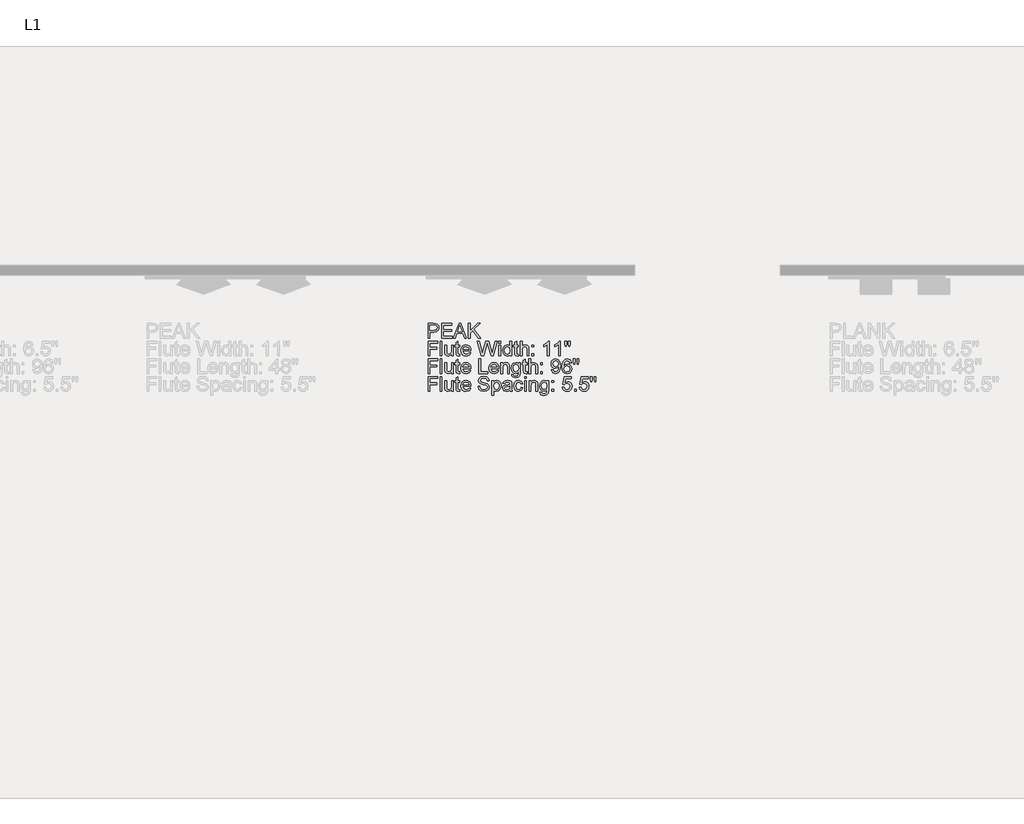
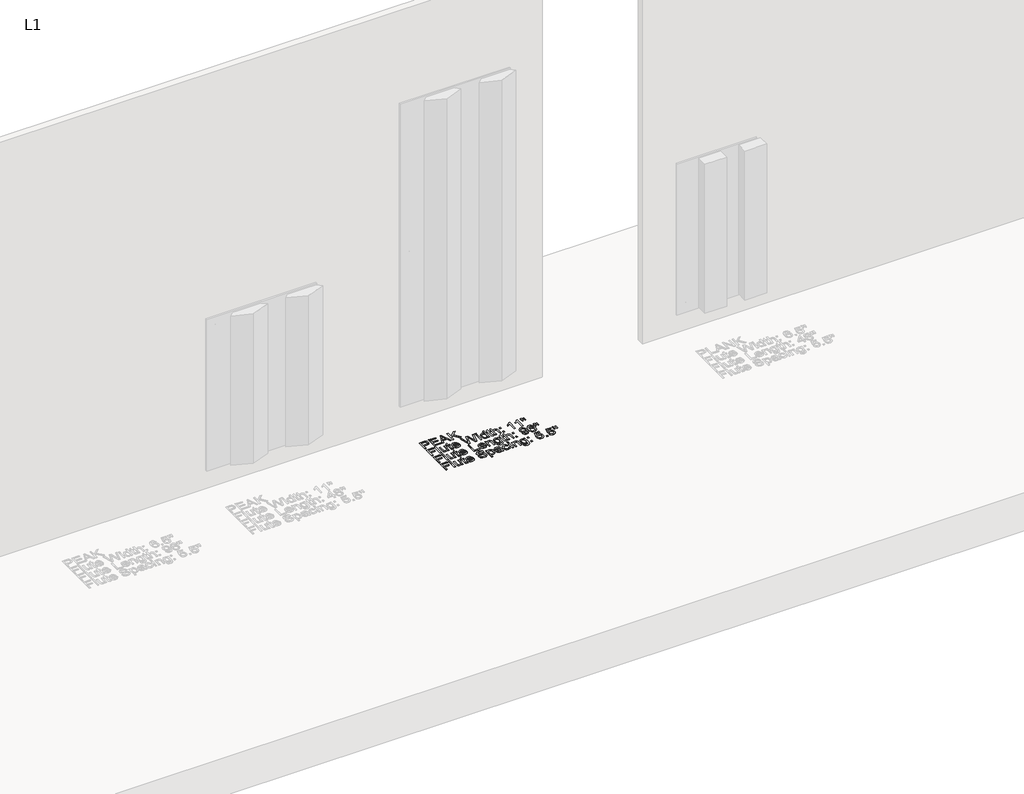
# One storey, part 11 of 17: 1 proxy.
"""IFC4 building model written with IfcOpenShell, lengths in millimetres."""

from ifc_helpers import new_model, si_unit, origin, origin_with_axes, place, context, project, spatial, polyline, outline, extrude, element, save

model = new_model("IFC4")

# Units and contexts
model_context = context("Model", 3, world=origin())
ifc_project = project(units=[si_unit("LENGTHUNIT", "METRE", prefix="MILLI")], contexts=[model_context])

# Site, building, storey
site = spatial("IfcSite", under=ifc_project)
building = spatial("IfcBuilding", under=site)
storey = spatial("IfcBuildingStorey", under=building, Name="L1", Elevation=0.0)

# Proxy
placement = place(None, origin())
element("IfcBuildingElementProxy", 1, Name="3\" Arial", ObjectType="3\" Arial", at=placement, inside=storey, context=model_context, shape_type="SweptSolid", body=[
    extrude(outline(polyline([(11546.3224056, -355.6), (11546.3224056, -279.0522917), (11574.6914049, -279.0522917), (11586.128709, -279.7811395), (11595.4261907, -283.3599691), (11601.4532014, -290.7605776), (11603.7331868, -301.198052), (11602.1937295, -310.2198797), (11597.5753573, -317.7372908), (11588.938978, -322.8111928), (11575.3454991, -324.5024935), (11555.8908691, -324.5024935), (11555.8908691, -355.6), (11546.3224056, -355.6)]), holes=[polyline([(11555.8908691, -314.9340299), (11575.9061513, -314.9340299), (11589.9972089, -311.4206097), (11594.1647233, -301.5344433), (11591.707198, -293.6105594), (11585.250354, -289.2748494), (11575.6818904, -288.6207552), (11555.8908691, -288.6207552), (11555.8908691, -314.9340299)])]), origin_with_axes(), (0.0, 0.0, 1.0), 3.175),
    extrude(outline(polyline([(11616.8898242, -355.6), (11616.8898242, -279.0522917), (11671.9084896, -279.0522917), (11671.9084896, -288.6207552), (11626.4582878, -288.6207552), (11626.4582878, -311.3458561), (11669.5163737, -311.3458561), (11669.5163737, -320.9143197), (11626.4582878, -320.9143197), (11626.4582878, -346.0315365), (11673.1045475, -346.0315365), (11673.1045475, -355.6), (11616.8898242, -355.6)])), origin_with_axes(), (0.0, 0.0, 1.0), 3.175),
    extrude(outline(polyline([(11678.5615619, -355.6), (11709.1171046, -279.0522917), (11717.2652494, -279.0522917), (11747.8021037, -355.6), (11737.6916764, -355.6), (11728.9455027, -331.6788411), (11697.3994745, -331.6788411), (11688.6533008, -355.6), (11678.5615619, -355.6)]), holes=[polyline([(11700.9128947, -322.1103776), (11725.4507709, -322.1103776), (11718.5360609, -303.2911534), (11713.1724886, -288.6207552), (11708.4069452, -301.6465737), (11700.9128947, -322.1103776)])]), origin_with_axes(), (0.0, 0.0, 1.0), 3.175),
    extrude(outline(polyline([(11758.0246615, -355.6), (11758.0246615, -279.0522917), (11767.593125, -279.0522917), (11767.593125, -316.5225444), (11806.8387762, -279.0522917), (11820.2196745, -279.0522917), (11787.2533274, -310.5235663), (11821.4157324, -355.6), (11809.7167907, -355.6), (11780.4694363, -316.9897545), (11767.593125, -329.2867253), (11767.593125, -355.6), (11758.0246615, -355.6)])), origin_with_axes(), (0.0, 0.0, 1.0), 3.175),
    extrude(outline(polyline([(11546.3224056, -448.5448112), (11546.3224056, -371.9971029), (11597.7528971, -371.9971029), (11597.7528971, -381.5655664), (11555.8908691, -381.5655664), (11555.8908691, -404.2906673), (11591.7726074, -404.2906673), (11591.7726074, -413.8591309), (11555.8908691, -413.8591309), (11555.8908691, -448.5448112), (11546.3224056, -448.5448112)])), origin_with_axes(), (0.0, 0.0, 1.0), 3.175),
    extrude(outline(polyline([(11609.7134766, -448.5448112), (11609.7134766, -371.9971029), (11619.2819401, -371.9971029), (11619.2819401, -448.5448112), (11609.7134766, -448.5448112)])), origin_with_axes(), (0.0, 0.0, 1.0), 3.175),
    extrude(outline(polyline([(11669.5163737, -448.5448112), (11669.5163737, -438.8829056), (11662.0223232, -447.0263783), (11652.2482872, -449.7408691), (11643.24982, -447.8346518), (11637.0452694, -443.05042), (11634.1952876, -436.0048912), (11633.6346354, -427.1092103), (11633.6346354, -392.3300879), (11643.203099, -392.3300879), (11643.203099, -422.6053046), (11643.7824395, -432.3606522), (11647.5668416, -438.0886484), (11654.6964683, -440.1724056), (11662.6857615, -438.0419274), (11667.9652361, -432.2391775), (11669.5163737, -421.5774423), (11669.5163737, -392.3300879), (11679.0848372, -392.3300879), (11679.0848372, -448.5448112), (11669.5163737, -448.5448112)])), origin_with_axes(), (0.0, 0.0, 1.0), 3.175),
    extrude(outline(polyline([(11712.5744596, -440.5648621), (11713.7705176, -448.8251373), (11706.6128583, -449.7408691), (11698.5955324, -448.1523547), (11694.5962137, -443.9848403), (11693.4375326, -433.1268768), (11693.4375326, -401.8985514), (11686.2611849, -401.8985514), (11686.2611849, -392.3300879), (11693.4375326, -392.3300879), (11693.4375326, -378.6688636), (11703.0059961, -373.0436536), (11703.0059961, -392.3300879), (11712.5744596, -392.3300879), (11712.5744596, -401.8985514), (11703.0059961, -401.8985514), (11703.0059961, -432.8465507), (11703.510583, -437.7802897), (11705.1458185, -439.5276556), (11708.4069452, -440.1724056), (11712.5744596, -440.5648621)])), origin_with_axes(), (0.0, 0.0, 1.0), 3.175),
    extrude(outline(polyline([(11761.5007049, -431.8), (11770.8822843, -432.9960579), (11762.108078, -445.3490939), (11745.7650675, -449.7408691), (11734.538008, -447.846332), (11725.8992927, -442.1627208), (11720.3908852, -433.0591313), (11718.5547494, -420.9046597), (11720.4095736, -408.3413792), (11725.9740463, -398.9457834), (11734.4959591, -393.0869683), (11745.2231038, -391.1340299), (11755.6161932, -393.0822962), (11763.9208533, -398.927095), (11769.3661875, -408.3040024), (11771.1812988, -420.8485945), (11771.1252336, -423.4275944), (11728.1232129, -423.4275944), (11733.6269483, -435.855384), (11745.9519516, -440.1724056), (11755.3335311, -438.1727462), (11761.5007049, -431.8)]), holes=[polyline([(11728.1232129, -413.8591309), (11761.6128353, -413.8591309), (11757.7817122, -405.1877108), (11745.185727, -400.7024935), (11733.4026874, -404.2813231), (11728.1232129, -413.8591309)])]), origin_with_axes(), (0.0, 0.0, 1.0), 3.175),
    extrude(outline(polyline([(11825.54587, -448.5448112), (11804.6709212, -371.9971029), (11814.5383993, -371.9971029), (11826.6484859, -422.3062901), (11830.386167, -437.8363549), (11834.3854857, -424.100377), (11849.5604709, -371.9971029), (11863.7823474, -371.9971029), (11874.8085065, -409.7663701), (11883.0127165, -437.8363549), (11886.6382671, -422.7548118), (11898.8417958, -371.9971029), (11908.7279622, -371.9971029), (11887.8717019, -448.5448112), (11877.6304557, -448.5448112), (11859.2597533, -389.4894503), (11856.6994417, -381.2478635), (11853.8214273, -391.1714068), (11837.0953045, -448.5448112), (11825.54587, -448.5448112)])), origin_with_axes(), (0.0, 0.0, 1.0), 3.175),
    extrude(outline(polyline([(11917.1003678, -381.5655664), (11917.1003678, -371.9971029), (11926.6688314, -371.9971029), (11926.6688314, -381.5655664), (11917.1003678, -381.5655664)])), origin_with_axes(), (0.0, 0.0, 1.0), 3.175),
    extrude(outline(polyline([(11917.1003678, -448.5448112), (11917.1003678, -392.3300879), (11926.6688314, -392.3300879), (11926.6688314, -448.5448112), (11917.1003678, -448.5448112)])), origin_with_axes(), (0.0, 0.0, 1.0), 3.175),
    extrude(outline(polyline([(11975.707207, -448.5448112), (11975.707207, -439.5183114), (11969.3765097, -447.1852297), (11960.6256639, -449.7408691), (11948.7772149, -446.0405649), (11940.4048093, -435.7152209), (11937.4333529, -420.4935148), (11940.1712043, -405.2624644), (11948.3754142, -394.778269), (11960.5882871, -391.1340299), (11969.4092144, -393.7410625), (11975.707207, -400.5156094), (11975.707207, -371.9971029), (11985.2756706, -371.9971029), (11985.2756706, -448.5448112), (11975.707207, -448.5448112)]), holes=[polyline([(11947.0018164, -420.4561379), (11951.318838, -435.2666992), (11961.504019, -440.1724056), (11971.5677252, -435.4909601), (11975.707207, -421.1849858), (11971.4929716, -405.6549209), (11961.1115625, -400.7024935), (11951.038512, -405.4586927), (11947.0018164, -420.4561379)])]), origin_with_axes(), (0.0, 0.0, 1.0), 3.175),
    extrude(outline(polyline([(12019.9613509, -440.5648621), (12021.1574089, -448.8251373), (12013.9997496, -449.7408691), (12005.9824237, -448.1523547), (12001.983105, -443.9848403), (12000.8244238, -433.1268768), (12000.8244238, -401.8985514), (11993.6480762, -401.8985514), (11993.6480762, -392.3300879), (12000.8244238, -392.3300879), (12000.8244238, -378.6688636), (12010.3928874, -373.0436536), (12010.3928874, -392.3300879), (12019.9613509, -392.3300879), (12019.9613509, -401.8985514), (12010.3928874, -401.8985514), (12010.3928874, -432.8465507), (12010.8974743, -437.7802897), (12012.5327098, -439.5276556), (12015.7938365, -440.1724056), (12019.9613509, -440.5648621)])), origin_with_axes(), (0.0, 0.0, 1.0), 3.175),
    extrude(outline(polyline([(12029.5298145, -448.5448112), (12029.5298145, -371.9971029), (12039.098278, -371.9971029), (12039.098278, -400.1418413), (12046.5596238, -393.3859828), (12055.7496472, -391.1340299), (12066.4954802, -393.5915553), (12073.0177337, -400.3847906), (12074.9800163, -412.9620874), (12074.9800163, -448.5448112), (12065.4115527, -448.5448112), (12065.4115527, -413.9525729), (12062.3653427, -403.860834), (12053.7312994, -400.7024935), (12045.8915133, -402.8329717), (12040.6587598, -408.607689), (12039.098278, -418.6807394), (12039.098278, -448.5448112), (12029.5298145, -448.5448112)])), origin_with_axes(), (0.0, 0.0, 1.0), 3.175),
    extrude(outline(polyline([(12090.5287695, -401.8985514), (12090.5287695, -392.3300879), (12100.0972331, -392.3300879), (12100.0972331, -401.8985514), (12090.5287695, -401.8985514)])), origin_with_axes(), (0.0, 0.0, 1.0), 3.175),
    extrude(outline(polyline([(12090.5287695, -448.5448112), (12090.5287695, -438.9763477), (12100.0972331, -438.9763477), (12100.0972331, -448.5448112), (12090.5287695, -448.5448112)])), origin_with_axes(), (0.0, 0.0, 1.0), 3.175),
    extrude(outline(polyline([(12181.4291732, -448.5448112), (12171.8607096, -448.5448112), (12171.8607096, -388.8914213), (12162.796833, -395.3482654), (12152.7237826, -400.1792181), (12152.7237826, -391.1340299), (12166.7494308, -382.1822838), (12175.2619994, -371.9971029), (12181.4291732, -371.9971029), (12181.4291732, -448.5448112)])), origin_with_axes(), (0.0, 0.0, 1.0), 3.175),
    extrude(outline(polyline([(12240.0360124, -448.5448112), (12230.4675488, -448.5448112), (12230.4675488, -388.8914213), (12221.4036722, -395.3482654), (12211.3306218, -400.1792181), (12211.3306218, -391.1340299), (12225.35627, -382.1822838), (12233.8688386, -371.9971029), (12240.0360124, -371.9971029), (12240.0360124, -448.5448112)])), origin_with_axes(), (0.0, 0.0, 1.0), 3.175),
    extrude(outline(polyline([(12265.097164, -399.5064355), (12262.7611133, -384.7239069), (12262.7611133, -371.9971029), (12272.3295768, -371.9971029), (12272.3295768, -384.7239069), (12270.2364754, -399.5064355), (12265.097164, -399.5064355)])), origin_with_axes(), (0.0, 0.0, 1.0), 3.175),
    extrude(outline(polyline([(12284.1780258, -399.5064355), (12281.8980404, -384.7239069), (12281.8980404, -371.9971029), (12291.4665039, -371.9971029), (12291.4665039, -384.7239069), (12289.2238953, -399.5064355), (12284.1780258, -399.5064355)])), origin_with_axes(), (0.0, 0.0, 1.0), 3.175),
    extrude(outline(polyline([(11546.3224056, -541.4896224), (11546.3224056, -464.9419141), (11597.7528971, -464.9419141), (11597.7528971, -474.5103776), (11555.8908691, -474.5103776), (11555.8908691, -497.2354785), (11591.7726074, -497.2354785), (11591.7726074, -506.8039421), (11555.8908691, -506.8039421), (11555.8908691, -541.4896224), (11546.3224056, -541.4896224)])), origin_with_axes(), (0.0, 0.0, 1.0), 3.175),
    extrude(outline(polyline([(11609.7134766, -541.4896224), (11609.7134766, -464.9419141), (11619.2819401, -464.9419141), (11619.2819401, -541.4896224), (11609.7134766, -541.4896224)])), origin_with_axes(), (0.0, 0.0, 1.0), 3.175),
    extrude(outline(polyline([(11669.5163737, -541.4896224), (11669.5163737, -531.8277168), (11662.0223232, -539.9711895), (11652.2482872, -542.6856803), (11643.24982, -540.779463), (11637.0452694, -535.9952312), (11634.1952876, -528.9497024), (11633.6346354, -520.0540215), (11633.6346354, -485.2748991), (11643.203099, -485.2748991), (11643.203099, -515.5501158), (11643.7824395, -525.3054634), (11647.5668416, -531.0334596), (11654.6964683, -533.1172168), (11662.6857615, -530.9867386), (11667.9652361, -525.1839887), (11669.5163737, -514.5222535), (11669.5163737, -485.2748991), (11679.0848372, -485.2748991), (11679.0848372, -541.4896224), (11669.5163737, -541.4896224)])), origin_with_axes(), (0.0, 0.0, 1.0), 3.175),
    extrude(outline(polyline([(11712.5744596, -533.5096733), (11713.7705176, -541.7699485), (11706.6128583, -542.6856803), (11698.5955324, -541.0971659), (11694.5962137, -536.9296515), (11693.4375326, -526.071688), (11693.4375326, -494.8433626), (11686.2611849, -494.8433626), (11686.2611849, -485.2748991), (11693.4375326, -485.2748991), (11693.4375326, -471.6136748), (11703.0059961, -465.9884648), (11703.0059961, -485.2748991), (11712.5744596, -485.2748991), (11712.5744596, -494.8433626), (11703.0059961, -494.8433626), (11703.0059961, -525.7913619), (11703.510583, -530.7251009), (11705.1458185, -532.4724668), (11708.4069452, -533.1172168), (11712.5744596, -533.5096733)])), origin_with_axes(), (0.0, 0.0, 1.0), 3.175),
    extrude(outline(polyline([(11761.5007049, -524.7448112), (11770.8822843, -525.9408691), (11762.108078, -538.2939051), (11745.7650675, -542.6856803), (11734.538008, -540.7911432), (11725.8992927, -535.107532), (11720.3908852, -526.0039425), (11718.5547494, -513.8494709), (11720.4095736, -501.2861904), (11725.9740463, -491.8905946), (11734.4959591, -486.0317795), (11745.2231038, -484.0788411), (11755.6161932, -486.0271074), (11763.9208533, -491.8719062), (11769.3661875, -501.2488136), (11771.1812988, -513.7934057), (11771.1252336, -516.3724056), (11728.1232129, -516.3724056), (11733.6269483, -528.8001952), (11745.9519516, -533.1172168), (11755.3335311, -531.1175574), (11761.5007049, -524.7448112)]), holes=[polyline([(11728.1232129, -506.8039421), (11761.6128353, -506.8039421), (11757.7817122, -498.132522), (11745.185727, -493.6473047), (11733.4026874, -497.2261343), (11728.1232129, -506.8039421)])]), origin_with_axes(), (0.0, 0.0, 1.0), 3.175),
    extrude(outline(polyline([(11811.8472689, -541.4896224), (11811.8472689, -464.9419141), (11821.4157324, -464.9419141), (11821.4157324, -531.9211589), (11859.6895866, -531.9211589), (11859.6895866, -541.4896224), (11811.8472689, -541.4896224)])), origin_with_axes(), (0.0, 0.0, 1.0), 3.175),
    extrude(outline(polyline([(11908.6158318, -524.7448112), (11917.9974113, -525.9408691), (11909.223205, -538.2939051), (11892.8801945, -542.6856803), (11881.653135, -540.7911432), (11873.0144196, -535.107532), (11867.5060121, -526.0039425), (11865.6698763, -513.8494709), (11867.5247005, -501.2861904), (11873.0891732, -491.8905946), (11881.6110861, -486.0317795), (11892.3382307, -484.0788411), (11902.7313202, -486.0271074), (11911.0359803, -491.8719062), (11916.4813144, -501.2488136), (11918.2964258, -513.7934057), (11918.2403606, -516.3724056), (11875.2383398, -516.3724056), (11880.7420752, -528.8001952), (11893.0670786, -533.1172168), (11902.448658, -531.1175574), (11908.6158318, -524.7448112)]), holes=[polyline([(11875.2383398, -506.8039421), (11908.7279622, -506.8039421), (11904.8968391, -498.132522), (11892.3008539, -493.6473047), (11880.5178144, -497.2261343), (11875.2383398, -506.8039421)])]), origin_with_axes(), (0.0, 0.0, 1.0), 3.175),
    extrude(outline(polyline([(11927.8648893, -541.4896224), (11927.8648893, -485.2748991), (11937.4333529, -485.2748991), (11937.4333529, -493.1240293), (11944.7498636, -486.3401382), (11954.7388162, -484.0788411), (11963.7746602, -485.9009607), (11969.941834, -490.6851924), (11972.8105042, -497.7213771), (11973.3150911, -506.9721377), (11973.3150911, -541.4896224), (11963.7466276, -541.4896224), (11963.7466276, -508.2616377), (11962.6440117, -499.79579), (11958.7474792, -495.319917), (11952.1785047, -493.6473047), (11941.7970955, -497.4036742), (11937.4333529, -511.6629274), (11937.4333529, -541.4896224), (11927.8648893, -541.4896224)])), origin_with_axes(), (0.0, 0.0, 1.0), 3.175),
    extrude(outline(polyline([(11984.0796126, -546.2738542), (11993.6480762, -547.4699121), (11996.7503515, -552.5157816), (12006.0384889, -554.6462598), (12015.8312133, -552.2354555), (12020.5033147, -545.4702527), (12021.1574089, -534.3132747), (12014.4202387, -539.6955355), (12006.2066846, -541.4896224), (11996.3415426, -539.4011931), (11988.985319, -533.1359052), (11984.4089958, -523.950554), (11982.8835547, -513.1019347), (11985.6214061, -498.272685), (11993.5452899, -487.7791454), (12005.7394744, -484.0788411), (12014.2754036, -486.1719425), (12021.1574089, -492.4512467), (12021.1574089, -485.2748991), (12030.7258724, -485.2748991), (12030.7258724, -533.8086878), (12028.1094957, -552.3943069), (12019.8211879, -561.0376944), (12005.8516049, -564.2147233), (11989.9384277, -559.7388502), (11985.4415302, -554.1346647), (11984.0796126, -546.2738542)]), holes=[polyline([(11992.4520182, -512.4478405), (11996.5354348, -527.2584017), (12006.7860251, -531.9211589), (12017.0179271, -527.2864343), (12021.1574089, -512.7281666), (12016.8964524, -498.4595691), (12006.6365179, -493.6473047), (11996.5915, -498.3848154), (11992.4520182, -512.4478405)])]), origin_with_axes(), (0.0, 0.0, 1.0), 3.175),
    extrude(outline(polyline([(12065.4115527, -533.5096733), (12066.6076107, -541.7699485), (12059.4499514, -542.6856803), (12051.4326255, -541.0971659), (12047.4333068, -536.9296515), (12046.2746257, -526.071688), (12046.2746257, -494.8433626), (12039.098278, -494.8433626), (12039.098278, -485.2748991), (12046.2746257, -485.2748991), (12046.2746257, -471.6136748), (12055.8430892, -465.9884648), (12055.8430892, -485.2748991), (12065.4115527, -485.2748991), (12065.4115527, -494.8433626), (12055.8430892, -494.8433626), (12055.8430892, -525.7913619), (12056.3476761, -530.7251009), (12057.9829116, -532.4724668), (12061.2440383, -533.1172168), (12065.4115527, -533.5096733)])), origin_with_axes(), (0.0, 0.0, 1.0), 3.175),
    extrude(outline(polyline([(12074.9800163, -541.4896224), (12074.9800163, -464.9419141), (12084.5484798, -464.9419141), (12084.5484798, -493.0866525), (12092.0098257, -486.330794), (12101.199849, -484.0788411), (12111.9456821, -486.5363664), (12118.4679355, -493.3296018), (12120.4302181, -505.9068986), (12120.4302181, -541.4896224), (12110.8617546, -541.4896224), (12110.8617546, -506.8973841), (12107.8155445, -496.8056452), (12099.1815012, -493.6473047), (12091.3417152, -495.7777829), (12086.1089617, -501.5525002), (12084.5484798, -511.6255506), (12084.5484798, -541.4896224), (12074.9800163, -541.4896224)])), origin_with_axes(), (0.0, 0.0, 1.0), 3.175),
    extrude(outline(polyline([(12135.9789714, -541.4896224), (12135.9789714, -531.9211589), (12145.5474349, -531.9211589), (12145.5474349, -541.4896224), (12135.9789714, -541.4896224)])), origin_with_axes(), (0.0, 0.0, 1.0), 3.175),
    extrude(outline(polyline([(12135.9789714, -494.8433626), (12135.9789714, -485.2748991), (12145.5474349, -485.2748991), (12145.5474349, -494.8433626), (12135.9789714, -494.8433626)])), origin_with_axes(), (0.0, 0.0, 1.0), 3.175),
    extrude(outline(polyline([(12192.1936947, -522.3526953), (12201.7621582, -521.1566374), (12206.0604914, -530.2859234), (12214.2086362, -533.1172168), (12221.9549802, -531.2950973), (12227.2064221, -526.4267677), (12230.33673, -518.1104273), (12231.719672, -507.0095145), (12231.6636068, -505.140674), (12224.0107048, -512.3917753), (12213.5171652, -515.1763477), (12204.7920159, -513.4757028), (12197.5292344, -508.3737681), (12192.6305361, -500.4919331), (12190.9976367, -490.4515874), (12192.7099619, -480.0795224), (12197.8469373, -471.9500661), (12205.5629126, -466.6939521), (12215.0122376, -464.9419141), (12228.6454293, -468.9412328), (12238.0270088, -480.3411601), (12241.2320703, -501.7580726), (12238.036353, -524.9971047), (12228.5332989, -538.1630862), (12213.7601144, -542.6856803), (12199.0523394, -537.3501406), (12192.1936947, -522.3526953)]), holes=[polyline([(12231.6636068, -490.2273265), (12227.5334692, -478.7526456), (12216.5633753, -474.5103776), (12205.0513176, -479.0796927), (12200.5661003, -490.9187975), (12204.8083683, -501.5244675), (12216.3017376, -505.6078841), (12227.3372409, -501.5244675), (12231.6636068, -490.2273265)])]), origin_with_axes(), (0.0, 0.0, 1.0), 3.175),
    extrude(outline(polyline([(12298.6428516, -485.2748991), (12289.074388, -486.470957), (12285.4488374, -478.4910079), (12275.8616854, -474.5103776), (12267.2276422, -476.8277399), (12260.6960445, -485.5271926), (12257.9768815, -502.5803624), (12266.4146965, -494.9461489), (12276.8708593, -492.4512467), (12285.7104751, -494.1565637), (12293.129772, -499.2725147), (12298.1616251, -507.0889402), (12299.8389095, -516.8956809), (12296.680569, -530.0990393), (12287.9904605, -539.443242), (12275.4505405, -542.6856803), (12264.5949131, -540.5365137), (12255.9491895, -534.0890139), (12250.2936109, -522.707775), (12248.408418, -505.7573914), (12250.5015194, -486.69989), (12256.7808236, -473.6693994), (12265.3541295, -467.1237854), (12276.4597144, -464.9419141), (12291.5786343, -470.3428632), (12298.6428516, -485.2748991)]), holes=[polyline([(12257.9768815, -516.7461737), (12260.1914576, -525.0344815), (12266.0783052, -531.052148), (12274.7030043, -533.1172168), (12285.9814569, -528.837572), (12290.270446, -517.2133838), (12286.0375222, -506.0844385), (12274.3105478, -502.0197103), (12262.7330807, -506.0844385), (12257.9768815, -516.7461737)])]), origin_with_axes(), (0.0, 0.0, 1.0), 3.175),
    extrude(outline(polyline([(12310.5473658, -492.4512467), (12308.2113151, -477.6687181), (12308.2113151, -464.9419141), (12317.7797787, -464.9419141), (12317.7797787, -477.6687181), (12315.6866773, -492.4512467), (12310.5473658, -492.4512467)])), origin_with_axes(), (0.0, 0.0, 1.0), 3.175),
    extrude(outline(polyline([(12329.6282276, -492.4512467), (12327.3482422, -477.6687181), (12327.3482422, -464.9419141), (12336.9167057, -464.9419141), (12336.9167057, -477.6687181), (12334.6740971, -492.4512467), (12329.6282276, -492.4512467)])), origin_with_axes(), (0.0, 0.0, 1.0), 3.175),
    extrude(outline(polyline([(11546.3224056, -634.4344336), (11546.3224056, -557.8867253), (11597.7528971, -557.8867253), (11597.7528971, -567.4551888), (11555.8908691, -567.4551888), (11555.8908691, -590.1802897), (11591.7726074, -590.1802897), (11591.7726074, -599.7487533), (11555.8908691, -599.7487533), (11555.8908691, -634.4344336), (11546.3224056, -634.4344336)])), origin_with_axes(), (0.0, 0.0, 1.0), 3.175),
    extrude(outline(polyline([(11609.7134766, -634.4344336), (11609.7134766, -557.8867253), (11619.2819401, -557.8867253), (11619.2819401, -634.4344336), (11609.7134766, -634.4344336)])), origin_with_axes(), (0.0, 0.0, 1.0), 3.175),
    extrude(outline(polyline([(11669.5163737, -634.4344336), (11669.5163737, -624.772528), (11662.0223232, -632.9160007), (11652.2482872, -635.6304915), (11643.24982, -633.7242742), (11637.0452694, -628.9400424), (11634.1952876, -621.8945136), (11633.6346354, -612.9988327), (11633.6346354, -578.2197103), (11643.203099, -578.2197103), (11643.203099, -608.494927), (11643.7824395, -618.2502746), (11647.5668416, -623.9782708), (11654.6964683, -626.062028), (11662.6857615, -623.9315498), (11667.9652361, -618.1287999), (11669.5163737, -607.4670647), (11669.5163737, -578.2197103), (11679.0848372, -578.2197103), (11679.0848372, -634.4344336), (11669.5163737, -634.4344336)])), origin_with_axes(), (0.0, 0.0, 1.0), 3.175),
    extrude(outline(polyline([(11712.5744596, -626.4544845), (11713.7705176, -634.7147597), (11706.6128583, -635.6304915), (11698.5955324, -634.0419771), (11694.5962137, -629.8744627), (11693.4375326, -619.0164992), (11693.4375326, -587.7881738), (11686.2611849, -587.7881738), (11686.2611849, -578.2197103), (11693.4375326, -578.2197103), (11693.4375326, -564.558486), (11703.0059961, -558.933276), (11703.0059961, -578.2197103), (11712.5744596, -578.2197103), (11712.5744596, -587.7881738), (11703.0059961, -587.7881738), (11703.0059961, -618.7361731), (11703.510583, -623.6699121), (11705.1458185, -625.417278), (11708.4069452, -626.062028), (11712.5744596, -626.4544845)])), origin_with_axes(), (0.0, 0.0, 1.0), 3.175),
    extrude(outline(polyline([(11761.5007049, -617.6896224), (11770.8822843, -618.8856803), (11762.108078, -631.2387163), (11745.7650675, -635.6304915), (11734.538008, -633.7359544), (11725.8992927, -628.0523432), (11720.3908852, -618.9487537), (11718.5547494, -606.7942821), (11720.4095736, -594.2310016), (11725.9740463, -584.8354058), (11734.4959591, -578.9765907), (11745.2231038, -577.0236523), (11755.6161932, -578.9719186), (11763.9208533, -584.8167174), (11769.3661875, -594.1936248), (11771.1812988, -606.7382169), (11771.1252336, -609.3172168), (11728.1232129, -609.3172168), (11733.6269483, -621.7450064), (11745.9519516, -626.062028), (11755.3335311, -624.0623686), (11761.5007049, -617.6896224)]), holes=[polyline([(11728.1232129, -599.7487533), (11761.6128353, -599.7487533), (11757.7817122, -591.0773332), (11745.185727, -586.5921159), (11733.4026874, -590.1709455), (11728.1232129, -599.7487533)])]), origin_with_axes(), (0.0, 0.0, 1.0), 3.175),
    extrude(outline(polyline([(11808.2590951, -608.1211589), (11817.8275586, -608.1211589), (11820.9111455, -617.6989666), (11828.4425728, -623.7540099), (11839.9172537, -626.062028), (11849.9155506, -624.3146621), (11856.3723946, -619.5117419), (11858.4935286, -613.0922747), (11856.9050142, -607.1213292), (11850.4014491, -602.7762749), (11836.4692429, -599.1226917), (11821.4717976, -594.4038693), (11813.3329971, -587.2835869), (11810.6512109, -577.7711886), (11813.9684029, -566.9412577), (11823.6583411, -559.2976999), (11837.8428407, -556.6906673), (11852.9804491, -559.4191745), (11863.072188, -567.4365004), (11866.8659342, -579.4157682), (11857.2974707, -579.4157682), (11851.8778332, -569.585667), (11838.2166088, -566.2591309), (11824.5180077, -569.5482902), (11820.2196745, -577.4908625), (11823.2658846, -584.1252464), (11838.8893914, -589.4701303), (11855.8210867, -594.2730505), (11865.0811915, -602.0287387), (11868.0619922, -612.8493254), (11864.6326698, -624.2959737), (11854.7651918, -632.6496909), (11840.2910218, -635.6304915), (11823.2004751, -632.4160858), (11812.3892326, -622.7354918), (11808.2590951, -608.1211589)])), origin_with_axes(), (0.0, 0.0, 1.0), 3.175),
    extrude(outline(polyline([(11881.2186296, -655.9634766), (11881.2186296, -578.2197103), (11890.7870931, -578.2197103), (11890.7870931, -587.6012898), (11897.4027886, -579.6680617), (11906.3358464, -577.0236523), (11918.4646214, -580.7239566), (11926.3885053, -591.1520868), (11929.0609473, -605.8972386), (11926.0427698, -621.3992709), (11917.2779077, -631.9582199), (11905.1771652, -635.6304915), (11896.8514806, -633.1729662), (11890.7870931, -626.9590715), (11890.7870931, -655.9634766), (11881.2186296, -655.9634766)]), holes=[polyline([(11890.7870931, -606.7755937), (11894.9265749, -621.3525498), (11904.9715928, -626.062028), (11915.2221831, -621.1843542), (11919.4924837, -606.0654343), (11915.3249693, -591.4511013), (11905.3640493, -586.5921159), (11895.206901, -591.75946), (11890.7870931, -606.7755937)])]), origin_with_axes(), (0.0, 0.0, 1.0), 3.175),
    extrude(outline(polyline([(11975.707207, -627.2580859), (11966.4284138, -633.7429626), (11956.1778234, -635.6304915), (11942.2829941, -631.089209), (11937.4333529, -619.4837093), (11939.2648166, -611.9149051), (11944.077081, -606.420514), (11950.7768743, -603.2808619), (11959.0558379, -601.8418547), (11975.6511418, -598.5526953), (11975.707207, -596.4222171), (11973.0721419, -589.3579999), (11962.4945044, -586.5921159), (11952.8139105, -588.4329238), (11948.1978744, -594.9645215), (11938.6294108, -593.7684635), (11942.7688926, -584.4242609), (11951.1039214, -578.9485581), (11963.7279392, -577.0236523), (11975.3240947, -578.7242972), (11981.8743808, -582.9945979), (11984.8084604, -589.4888187), (11985.2756706, -597.8612243), (11985.2756706, -609.7657385), (11985.7615691, -626.3890751), (11987.6677865, -634.4344336), (11978.0993229, -634.4344336), (11975.707207, -627.2580859)]), holes=[polyline([(11975.707207, -608.1211589), (11960.2705842, -611.0552385), (11952.0383417, -612.6063761), (11948.3100048, -615.1293109), (11947.0018164, -618.8109267), (11949.8517982, -623.987615), (11958.2148596, -626.062028), (11967.8954536, -623.7726983), (11974.137381, -618.2315862), (11975.6511418, -610.8309776), (11975.707207, -608.1211589)])]), origin_with_axes(), (0.0, 0.0, 1.0), 3.175),
    extrude(outline(polyline([(12034.3140462, -614.1014486), (12043.8825098, -615.2975065), (12036.2015752, -630.2388866), (12021.02659, -635.6304915), (12010.8484173, -633.7499707), (12002.8894926, -628.1084084), (11997.7525172, -618.9534258), (11996.0401921, -606.5326444), (11998.9649275, -590.6381556), (12007.8792969, -580.4249421), (12020.8957712, -577.0236523), (12035.4446948, -581.6957537), (12042.6864518, -594.9645215), (12033.1179883, -596.1605794), (12028.679492, -588.993576), (12020.9705248, -586.5921159), (12009.8789562, -591.3202824), (12005.6086556, -606.2710067), (12009.7855142, -621.361894), (12020.7088871, -626.062028), (12029.7260427, -623.1279484), (12034.3140462, -614.1014486)])), origin_with_axes(), (0.0, 0.0, 1.0), 3.175),
    extrude(outline(polyline([(12052.2549154, -567.4551888), (12052.2549154, -557.8867253), (12061.8233789, -557.8867253), (12061.8233789, -567.4551888), (12052.2549154, -567.4551888)])), origin_with_axes(), (0.0, 0.0, 1.0), 3.175),
    extrude(outline(polyline([(12052.2549154, -634.4344336), (12052.2549154, -578.2197103), (12061.8233789, -578.2197103), (12061.8233789, -634.4344336), (12052.2549154, -634.4344336)])), origin_with_axes(), (0.0, 0.0, 1.0), 3.175),
    extrude(outline(polyline([(12076.1760742, -634.4344336), (12076.1760742, -578.2197103), (12085.7445378, -578.2197103), (12085.7445378, -586.0688405), (12093.0610485, -579.2849494), (12103.0500011, -577.0236523), (12112.0858451, -578.8457719), (12118.2530189, -583.6300036), (12121.1216891, -590.6661883), (12121.626276, -599.9169489), (12121.626276, -634.4344336), (12112.0578125, -634.4344336), (12112.0578125, -601.2064489), (12110.9551966, -592.7406012), (12107.0586641, -588.2647282), (12100.4896896, -586.5921159), (12090.1082804, -590.3484854), (12085.7445378, -604.6077386), (12085.7445378, -634.4344336), (12076.1760742, -634.4344336)])), origin_with_axes(), (0.0, 0.0, 1.0), 3.175),
    extrude(outline(polyline([(12132.3907975, -639.2186654), (12141.9592611, -640.4147233), (12145.0615364, -645.4605928), (12154.3496738, -647.591071), (12164.1423982, -645.1802667), (12168.8144996, -638.4150639), (12169.4685938, -627.2580859), (12162.7314236, -632.6403467), (12154.5178695, -634.4344336), (12144.6527275, -632.3460043), (12137.2965039, -626.0807164), (12132.7201807, -616.8953652), (12131.1947396, -606.0467459), (12133.932591, -591.2174962), (12141.8564748, -580.7239566), (12154.0506593, -577.0236523), (12162.5865885, -579.1167537), (12169.4685938, -585.3960579), (12169.4685938, -578.2197103), (12179.0370573, -578.2197103), (12179.0370573, -626.753499), (12176.4206805, -645.3391181), (12168.1323728, -653.9825056), (12154.1627898, -657.1595345), (12138.2496126, -652.6836614), (12133.7527151, -647.0794759), (12132.3907975, -639.2186654)]), holes=[polyline([(12140.7632031, -605.3926517), (12144.8466197, -620.2032129), (12155.09721, -624.8659701), (12165.329112, -620.2312455), (12169.4685938, -605.6729778), (12165.2076373, -591.4043803), (12154.9477028, -586.5921159), (12144.9026849, -591.3296266), (12140.7632031, -605.3926517)])]), origin_with_axes(), (0.0, 0.0, 1.0), 3.175),
    extrude(outline(polyline([(12195.7818685, -587.7881738), (12195.7818685, -578.2197103), (12205.350332, -578.2197103), (12205.350332, -587.7881738), (12195.7818685, -587.7881738)])), origin_with_axes(), (0.0, 0.0, 1.0), 3.175),
    extrude(outline(polyline([(12195.7818685, -634.4344336), (12195.7818685, -624.8659701), (12205.350332, -624.8659701), (12205.350332, -634.4344336), (12195.7818685, -634.4344336)])), origin_with_axes(), (0.0, 0.0, 1.0), 3.175),
    extrude(outline(polyline([(12250.8005339, -614.1014486), (12260.3689974, -612.9053906), (12265.190606, -622.7635245), (12275.1889028, -626.062028), (12287.1868591, -621.4740245), (12291.4665039, -609.2985284), (12287.457841, -597.9359779), (12275.3384101, -593.7684635), (12266.9379719, -595.4317316), (12261.5650553, -599.7487533), (12251.9965918, -598.5526953), (12260.3689974, -559.0827832), (12297.4467936, -559.0827832), (12297.4467936, -568.6512467), (12268.1059972, -568.6512467), (12263.994548, -589.731768), (12277.9921637, -584.2), (12286.9345656, -585.9146612), (12294.3632067, -591.0586448), (12299.3670273, -598.8984308), (12301.0349675, -608.7004994), (12299.5352229, -618.268963), (12295.0359893, -626.4544845), (12286.4206345, -633.3364898), (12275.151526, -635.6304915), (12265.7535942, -634.1564436), (12258.2665518, -629.7342996), (12253.1342485, -622.8779909), (12250.8005339, -614.1014486)])), origin_with_axes(), (0.0, 0.0, 1.0), 3.175),
    extrude(outline(polyline([(12314.1916048, -634.4344336), (12314.1916048, -624.8659701), (12323.7600684, -624.8659701), (12323.7600684, -634.4344336), (12314.1916048, -634.4344336)])), origin_with_axes(), (0.0, 0.0, 1.0), 3.175),
    extrude(outline(polyline([(12339.3088216, -614.1014486), (12348.8772852, -612.9053906), (12353.6988937, -622.7635245), (12363.6971906, -626.062028), (12375.6951468, -621.4740245), (12379.9747917, -609.2985284), (12375.9661287, -597.9359779), (12363.8466979, -593.7684635), (12355.4462596, -595.4317316), (12350.0733431, -599.7487533), (12340.5048796, -598.5526953), (12348.8772852, -559.0827832), (12385.9550814, -559.0827832), (12385.9550814, -568.6512467), (12356.614285, -568.6512467), (12352.5028358, -589.731768), (12366.5004514, -584.2), (12375.4428534, -585.9146612), (12382.8714945, -591.0586448), (12387.875315, -598.8984308), (12389.5432552, -608.7004994), (12388.0435107, -618.268963), (12383.5442771, -626.4544845), (12374.9289222, -633.3364898), (12363.6598138, -635.6304915), (12354.261882, -634.1564436), (12346.7748396, -629.7342996), (12341.6425362, -622.8779909), (12339.3088216, -614.1014486)])), origin_with_axes(), (0.0, 0.0, 1.0), 3.175),
    extrude(outline(polyline([(12400.2517115, -585.3960579), (12397.9156608, -570.6135293), (12397.9156608, -557.8867253), (12407.4841244, -557.8867253), (12407.4841244, -570.6135293), (12405.391023, -585.3960579), (12400.2517115, -585.3960579)])), origin_with_axes(), (0.0, 0.0, 1.0), 3.175),
    extrude(outline(polyline([(12419.3325734, -585.3960579), (12417.0525879, -570.6135293), (12417.0525879, -557.8867253), (12426.6210514, -557.8867253), (12426.6210514, -570.6135293), (12424.3784428, -585.3960579), (12419.3325734, -585.3960579)])), origin_with_axes(), (0.0, 0.0, 1.0), 3.175),
])

save(model, "model.ifc")
